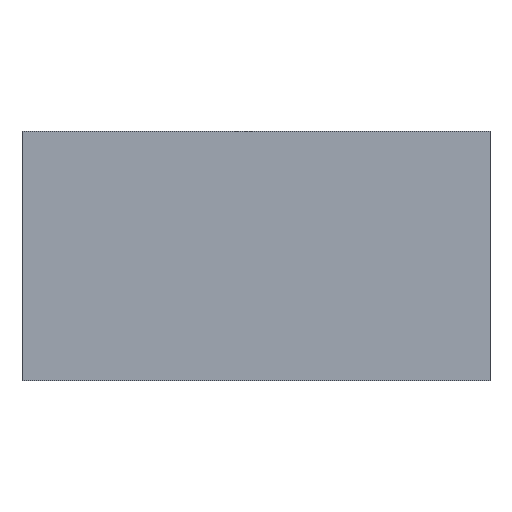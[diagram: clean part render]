
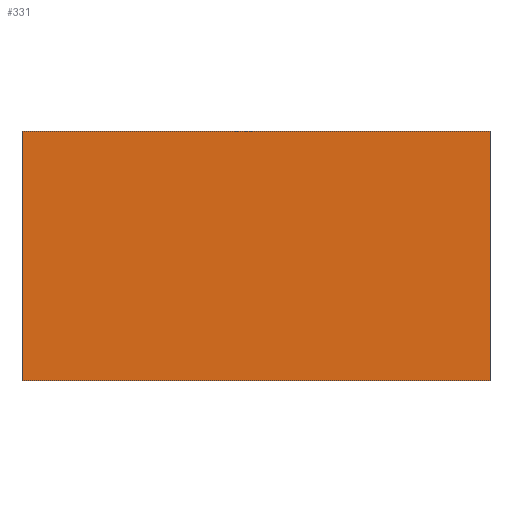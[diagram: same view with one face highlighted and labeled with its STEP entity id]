
A CAD part, top view. The second image highlights one B-rep face of the part: STEP entity #331.
In plain terms, the highlighted planar face has unit normal (0, 0, 1).
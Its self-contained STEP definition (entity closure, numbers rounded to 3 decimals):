
#22 = VERTEX_POINT('',#23);
#23 = CARTESIAN_POINT('',(36.,45.5,70.));
#32 = PLANE('',#33);
#33 = AXIS2_PLACEMENT_3D('',#34,#35,#36);
#34 = CARTESIAN_POINT('',(36.,45.5,70.));
#35 = DIRECTION('',(0.,-1.,0.));
#36 = DIRECTION('',(1.,0.,0.));
#44 = PLANE('',#45);
#45 = AXIS2_PLACEMENT_3D('',#46,#47,#48);
#46 = CARTESIAN_POINT('',(36.,25.5,70.));
#47 = DIRECTION('',(1.,0.,0.));
#48 = DIRECTION('',(0.,1.,0.));
#85 = VERTEX_POINT('',#86);
#86 = CARTESIAN_POINT('',(73.5,45.5,70.));
#100 = PLANE('',#101);
#101 = AXIS2_PLACEMENT_3D('',#102,#103,#104);
#102 = CARTESIAN_POINT('',(73.5,45.5,70.));
#103 = DIRECTION('',(-1.,0.,0.));
#104 = DIRECTION('',(0.,-1.,0.));
#112 = EDGE_CURVE('',#22,#85,#113,.T.);
#113 = SURFACE_CURVE('',#114,(#118,#125),.PCURVE_S1.);
#114 = LINE('',#115,#116);
#115 = CARTESIAN_POINT('',(36.,45.5,70.));
#116 = VECTOR('',#117,1.);
#117 = DIRECTION('',(1.,0.,0.));
#118 = PCURVE('',#32,#119);
#119 = DEFINITIONAL_REPRESENTATION('',(#120),#124);
#120 = LINE('',#121,#122);
#121 = CARTESIAN_POINT('',(0.,0.));
#122 = VECTOR('',#123,1.);
#123 = DIRECTION('',(1.,0.));
#124 = ( GEOMETRIC_REPRESENTATION_CONTEXT(2) 
PARAMETRIC_REPRESENTATION_CONTEXT() REPRESENTATION_CONTEXT('2D SPACE',''
  ) );
#125 = PCURVE('',#126,#131);
#126 = PLANE('',#127);
#127 = AXIS2_PLACEMENT_3D('',#128,#129,#130);
#128 = CARTESIAN_POINT('',(36.,45.5,70.));
#129 = DIRECTION('',(0.,0.,1.));
#130 = DIRECTION('',(1.,0.,0.));
#131 = DEFINITIONAL_REPRESENTATION('',(#132),#136);
#132 = LINE('',#133,#134);
#133 = CARTESIAN_POINT('',(0.,0.));
#134 = VECTOR('',#135,1.);
#135 = DIRECTION('',(1.,0.));
#136 = ( GEOMETRIC_REPRESENTATION_CONTEXT(2) 
PARAMETRIC_REPRESENTATION_CONTEXT() REPRESENTATION_CONTEXT('2D SPACE',''
  ) );
#166 = VERTEX_POINT('',#167);
#167 = CARTESIAN_POINT('',(73.5,25.5,70.));
#181 = PLANE('',#182);
#182 = AXIS2_PLACEMENT_3D('',#183,#184,#185);
#183 = CARTESIAN_POINT('',(73.5,25.5,70.));
#184 = DIRECTION('',(0.,1.,0.));
#185 = DIRECTION('',(-1.,0.,0.));
#193 = EDGE_CURVE('',#85,#166,#194,.T.);
#194 = SURFACE_CURVE('',#195,(#199,#206),.PCURVE_S1.);
#195 = LINE('',#196,#197);
#196 = CARTESIAN_POINT('',(73.5,45.5,70.));
#197 = VECTOR('',#198,1.);
#198 = DIRECTION('',(0.,-1.,0.));
#199 = PCURVE('',#100,#200);
#200 = DEFINITIONAL_REPRESENTATION('',(#201),#205);
#201 = LINE('',#202,#203);
#202 = CARTESIAN_POINT('',(0.,0.));
#203 = VECTOR('',#204,1.);
#204 = DIRECTION('',(1.,0.));
#205 = ( GEOMETRIC_REPRESENTATION_CONTEXT(2) 
PARAMETRIC_REPRESENTATION_CONTEXT() REPRESENTATION_CONTEXT('2D SPACE',''
  ) );
#206 = PCURVE('',#126,#207);
#207 = DEFINITIONAL_REPRESENTATION('',(#208),#212);
#208 = LINE('',#209,#210);
#209 = CARTESIAN_POINT('',(37.5,0.));
#210 = VECTOR('',#211,1.);
#211 = DIRECTION('',(0.,-1.));
#212 = ( GEOMETRIC_REPRESENTATION_CONTEXT(2) 
PARAMETRIC_REPRESENTATION_CONTEXT() REPRESENTATION_CONTEXT('2D SPACE',''
  ) );
#242 = VERTEX_POINT('',#243);
#243 = CARTESIAN_POINT('',(36.,25.5,70.));
#264 = EDGE_CURVE('',#166,#242,#265,.T.);
#265 = SURFACE_CURVE('',#266,(#270,#277),.PCURVE_S1.);
#266 = LINE('',#267,#268);
#267 = CARTESIAN_POINT('',(73.5,25.5,70.));
#268 = VECTOR('',#269,1.);
#269 = DIRECTION('',(-1.,0.,0.));
#270 = PCURVE('',#181,#271);
#271 = DEFINITIONAL_REPRESENTATION('',(#272),#276);
#272 = LINE('',#273,#274);
#273 = CARTESIAN_POINT('',(0.,0.));
#274 = VECTOR('',#275,1.);
#275 = DIRECTION('',(1.,0.));
#276 = ( GEOMETRIC_REPRESENTATION_CONTEXT(2) 
PARAMETRIC_REPRESENTATION_CONTEXT() REPRESENTATION_CONTEXT('2D SPACE',''
  ) );
#277 = PCURVE('',#126,#278);
#278 = DEFINITIONAL_REPRESENTATION('',(#279),#283);
#279 = LINE('',#280,#281);
#280 = CARTESIAN_POINT('',(37.5,-20.));
#281 = VECTOR('',#282,1.);
#282 = DIRECTION('',(-1.,0.));
#283 = ( GEOMETRIC_REPRESENTATION_CONTEXT(2) 
PARAMETRIC_REPRESENTATION_CONTEXT() REPRESENTATION_CONTEXT('2D SPACE',''
  ) );
#311 = EDGE_CURVE('',#242,#22,#312,.T.);
#312 = SURFACE_CURVE('',#313,(#317,#324),.PCURVE_S1.);
#313 = LINE('',#314,#315);
#314 = CARTESIAN_POINT('',(36.,25.5,70.));
#315 = VECTOR('',#316,1.);
#316 = DIRECTION('',(0.,1.,0.));
#317 = PCURVE('',#44,#318);
#318 = DEFINITIONAL_REPRESENTATION('',(#319),#323);
#319 = LINE('',#320,#321);
#320 = CARTESIAN_POINT('',(0.,0.));
#321 = VECTOR('',#322,1.);
#322 = DIRECTION('',(1.,0.));
#323 = ( GEOMETRIC_REPRESENTATION_CONTEXT(2) 
PARAMETRIC_REPRESENTATION_CONTEXT() REPRESENTATION_CONTEXT('2D SPACE',''
  ) );
#324 = PCURVE('',#126,#325);
#325 = DEFINITIONAL_REPRESENTATION('',(#326),#330);
#326 = LINE('',#327,#328);
#327 = CARTESIAN_POINT('',(0.,-20.));
#328 = VECTOR('',#329,1.);
#329 = DIRECTION('',(0.,1.));
#330 = ( GEOMETRIC_REPRESENTATION_CONTEXT(2) 
PARAMETRIC_REPRESENTATION_CONTEXT() REPRESENTATION_CONTEXT('2D SPACE',''
  ) );
#331 = ADVANCED_FACE('',(#332),#126,.T.);
#332 = FACE_BOUND('',#333,.F.);
#333 = EDGE_LOOP('',(#334,#335,#336,#337));
#334 = ORIENTED_EDGE('',*,*,#112,.T.);
#335 = ORIENTED_EDGE('',*,*,#193,.T.);
#336 = ORIENTED_EDGE('',*,*,#264,.T.);
#337 = ORIENTED_EDGE('',*,*,#311,.T.);
